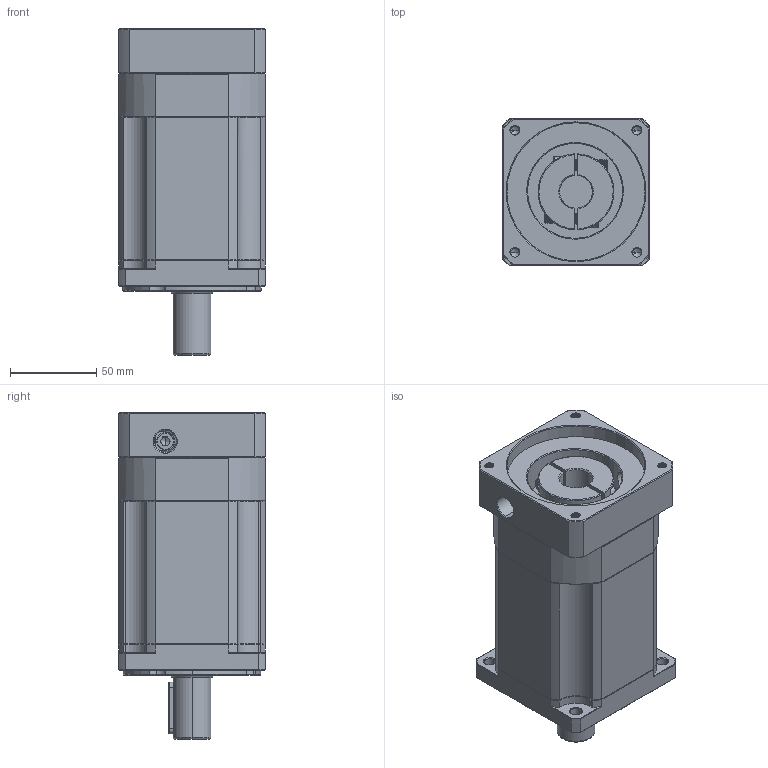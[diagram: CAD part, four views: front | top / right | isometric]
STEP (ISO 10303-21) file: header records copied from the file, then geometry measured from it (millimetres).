
FILE_DESCRIPTION (( 'STEP AP214' ), '1' );
FILE_NAME ('ZB090-D22-L3-P2-19-80-100-M6.step', '2023-08-18T12:15:55', ( '' ), ( '' ), 'SwSTEP 2.0', 'SolidWorks 2016', '' );
FILE_SCHEMA (( 'AUTOMOTIVE_DESIGN' ));
Length unit declared in the file: millimetre
Products named in the file (1): ZB090-D22-L3-P2-19-80-100-M6
Bounding box: 85 x 85 x 189 mm (x, y, z)
Volume: 904382.3 mm3; surface area: 101485.1 mm2
Topology: 4 solids, 5 shells, 2220 faces, 5886 edges, 3751 vertices
Faces by surface type: plane 1066, bspline 397, cylinder 396, cone 334, torus 27
Entity records: 120653 total; most frequent: CARTESIAN_POINT 44566, ORIENTED_EDGE 11728, DIRECTION 9172, EDGE_CURVE 5864, VERTEX_POINT 3751, VECTOR 3724, LINE 3724, AXIS2_PLACEMENT_3D 2724
